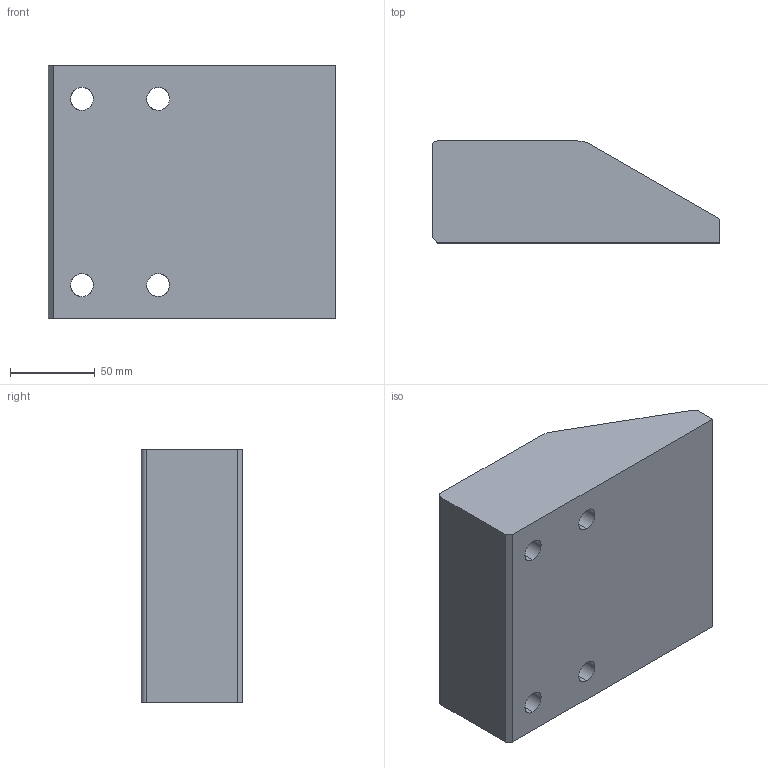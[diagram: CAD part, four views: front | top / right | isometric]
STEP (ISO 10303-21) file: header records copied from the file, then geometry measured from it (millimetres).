
FILE_DESCRIPTION(('CATIA V5 STEP Exchange'),'2;1');
FILE_NAME('C:\Users\Raffaele\Desktop\3D X SITO CF\A935\GSB_OILLESS_G2290115017060\STEP-2.03\A935-15017060.stp','2019-07-12T08:58:56+00:00',('none'),('none'),'CATIA Version 5 Release 20 GA (IN-10)','CATIA V5 STEP AP203','none');
FILE_SCHEMA(('CONFIG_CONTROL_DESIGN'));
Length unit declared in the file: millimetre
Products named in the file (1): A935-15017060
Bounding box: 170 x 60 x 150 mm (x, y, z)
Volume: 1185972.1 mm3; surface area: 92485.5 mm2
Topology: 1 solids, 1 shells, 39 faces, 131 edges, 98 vertices
Faces by surface type: cylinder 19, plane 12, torus 8
Entity records: 1691 total; most frequent: CARTESIAN_POINT 493, ORIENTED_EDGE 262, DIRECTION 193, EDGE_CURVE 131, AXIS2_PLACEMENT_3D 118, VERTEX_POINT 98, CIRCLE 78, EDGE_LOOP 51
